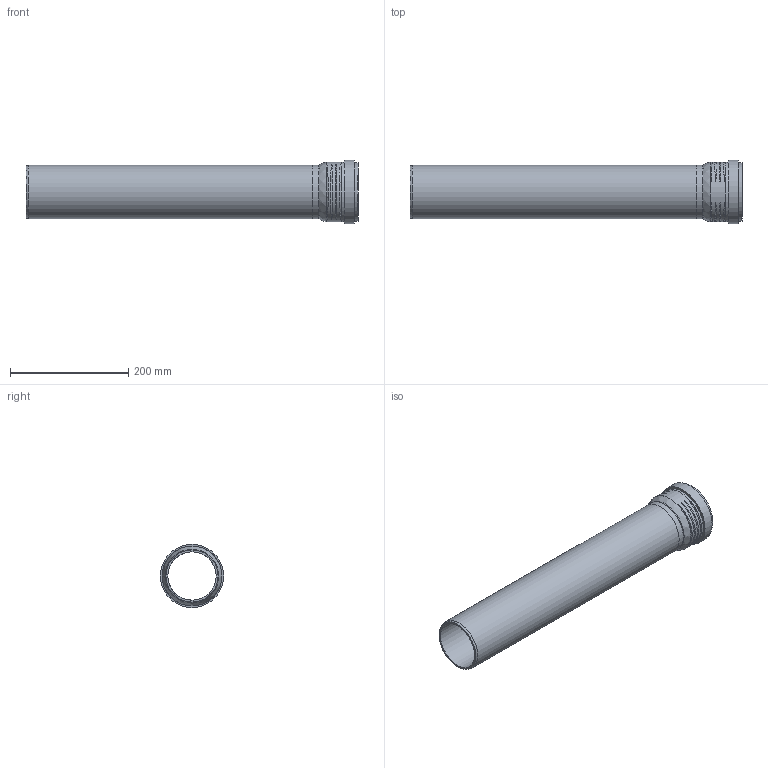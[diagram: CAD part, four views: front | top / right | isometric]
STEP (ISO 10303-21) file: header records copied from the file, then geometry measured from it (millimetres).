
FILE_DESCRIPTION(/* description */ (''),/* implementation_level */ '2;1');
FILE_NAME(/* name */ 'H:\Geberit-Teile\Export\PP_Rohr\stp\393402.stp',/* time_stamp */ '2017-02-13T16:07:14+01:00',/* author */ ('seihe2'),/* organization */ (''),/* preprocessor_version */ 'ST-DEVELOPER v15.2',/* originating_system */ 'Autodesk Inventor 2014',/* authorisation */ '');
FILE_SCHEMA (('AUTOMOTIVE_DESIGN { 1 0 10303 214 3 1 1 }'));
Length unit declared in the file: millimetre
Products named in the file (1): 393402
Bounding box: 561 x 107 x 107 mm (x, y, z)
Volume: 674275.6 mm3; surface area: 324729.7 mm2
Topology: 2 solids, 2 shells, 38 faces, 81 edges, 56 vertices
Faces by surface type: torus 17, cylinder 10, plane 8, cone 2, bspline 1
Full cylindrical faces by diameter (mm): 81.6 x2, 90.2 x2, 91 x1, 93 x1, 98.8 x1, 100 x1, 100.8 x1, 107 x1
Entity records: 2149 total; most frequent: CARTESIAN_POINT 1370, DIRECTION 130, ORIENTED_EDGE 124, EDGE_LOOP 69, AXIS2_PLACEMENT_3D 65, EDGE_CURVE 62, VERTEX_POINT 55, STYLED_ITEM 40
